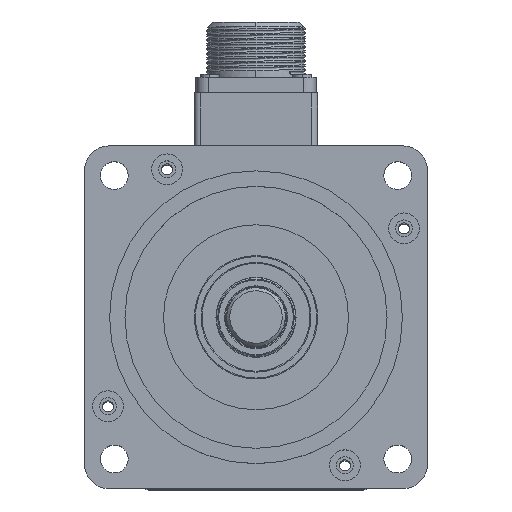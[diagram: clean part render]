
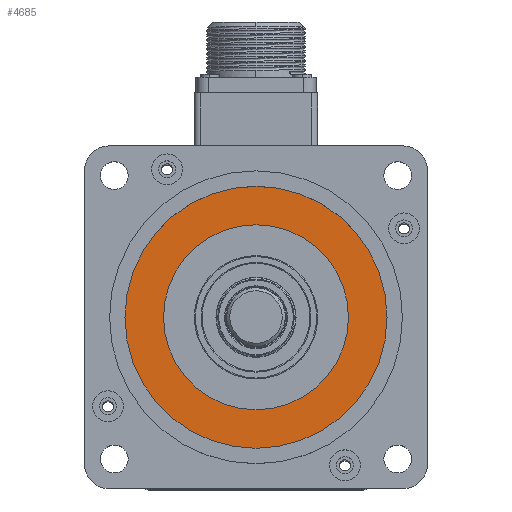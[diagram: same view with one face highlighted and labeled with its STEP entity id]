
A CAD part, top view. The second image highlights one B-rep face of the part: STEP entity #4685.
In plain terms, the highlighted planar face has unit normal (0, 0, 1) as drawn and (1, 0, 0) by its records, which use the part's own axes.
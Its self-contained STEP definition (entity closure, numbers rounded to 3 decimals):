
#167 = PLANE ( 'NONE',  #20607 ) ;
#2579 = FACE_OUTER_BOUND ( 'NONE', #22602, .T. ) ;
#3976 = DIRECTION ( 'NONE',  ( -1., 0., 0. ) ) ;
#4685 = ADVANCED_FACE ( 'NONE', ( #2579, #44329 ), #167, .F. ) ;
#6166 = EDGE_CURVE ( 'NONE', #22368, #42832, #48003, .T. ) ;
#8406 = CARTESIAN_POINT ( 'NONE',  ( 12.5, 0., 0. ) ) ;
#8732 = EDGE_CURVE ( 'NONE', #34778, #44378, #51590, .T. ) ;
#12379 = DIRECTION ( 'NONE',  ( -1., 0., 0. ) ) ;
#12413 = EDGE_CURVE ( 'NONE', #44378, #34778, #27381, .T. ) ;
#12476 = DIRECTION ( 'NONE',  ( 0., 0., 1. ) ) ;
#13547 = DIRECTION ( 'NONE',  ( -1., 0., 0. ) ) ;
#13560 = CARTESIAN_POINT ( 'NONE',  ( 12.5, 0., 30. ) ) ;
#18092 = AXIS2_PLACEMENT_3D ( 'NONE', #37730, #13547, #41807 ) ;
#19641 = EDGE_LOOP ( 'NONE', ( #20584, #42267 ) ) ;
#20083 = CARTESIAN_POINT ( 'NONE',  ( 12.5, 0., 0. ) ) ;
#20584 = ORIENTED_EDGE ( 'NONE', *, *, #8732, .T. ) ;
#20607 = AXIS2_PLACEMENT_3D ( 'NONE', #36542, #12379, #40643 ) ;
#22368 = VERTEX_POINT ( 'NONE', #32345 ) ;
#22602 = EDGE_LOOP ( 'NONE', ( #47698, #44077 ) ) ;
#24112 = DIRECTION ( 'NONE',  ( 0., 0., 1. ) ) ;
#27369 = AXIS2_PLACEMENT_3D ( 'NONE', #8406, #36637, #12476 ) ;
#27381 = CIRCLE ( 'NONE', #18092, 30. ) ;
#28111 = CARTESIAN_POINT ( 'NONE',  ( 12.5, 0., 0. ) ) ;
#32134 = AXIS2_PLACEMENT_3D ( 'NONE', #20083, #48379, #24112 ) ;
#32171 = DIRECTION ( 'NONE',  ( 0., 0., 1. ) ) ;
#32345 = CARTESIAN_POINT ( 'NONE',  ( 12.5, 0., 42.5 ) ) ;
#32881 = CARTESIAN_POINT ( 'NONE',  ( 12.5, 0., -42.5 ) ) ;
#33367 = AXIS2_PLACEMENT_3D ( 'NONE', #28111, #3976, #32171 ) ;
#34778 = VERTEX_POINT ( 'NONE', #13560 ) ;
#36542 = CARTESIAN_POINT ( 'NONE',  ( 12.5, 30., 0. ) ) ;
#36637 = DIRECTION ( 'NONE',  ( -1., 0., 0. ) ) ;
#37730 = CARTESIAN_POINT ( 'NONE',  ( 12.5, 0., 0. ) ) ;
#40643 = DIRECTION ( 'NONE',  ( 0., 0., 1. ) ) ;
#41807 = DIRECTION ( 'NONE',  ( 0., 0., 1. ) ) ;
#42267 = ORIENTED_EDGE ( 'NONE', *, *, #12413, .T. ) ;
#42832 = VERTEX_POINT ( 'NONE', #32881 ) ;
#44077 = ORIENTED_EDGE ( 'NONE', *, *, #47238, .F. ) ;
#44329 = FACE_BOUND ( 'NONE', #19641, .T. ) ;
#44378 = VERTEX_POINT ( 'NONE', #45140 ) ;
#45140 = CARTESIAN_POINT ( 'NONE',  ( 12.5, 0., -30. ) ) ;
#46815 = CIRCLE ( 'NONE', #27369, 42.5 ) ;
#47238 = EDGE_CURVE ( 'NONE', #42832, #22368, #46815, .T. ) ;
#47698 = ORIENTED_EDGE ( 'NONE', *, *, #6166, .F. ) ;
#48003 = CIRCLE ( 'NONE', #33367, 42.5 ) ;
#48379 = DIRECTION ( 'NONE',  ( -1., 0., 0. ) ) ;
#51590 = CIRCLE ( 'NONE', #32134, 30. ) ;
